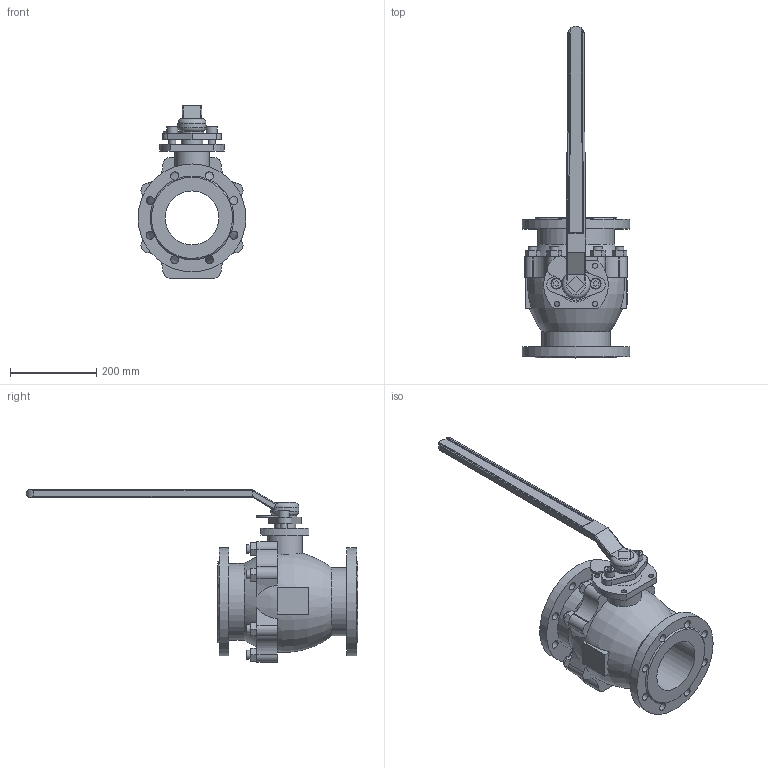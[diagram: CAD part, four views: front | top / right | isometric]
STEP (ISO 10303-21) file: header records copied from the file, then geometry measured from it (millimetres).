
FILE_DESCRIPTION(('STEP AP203'), '1');
FILE_NAME('3D_707-125-16', '', ('UNSPECIFIED'), ('UNSPECIFIED'), 'C3D Converter', 'C3D Toolkit', '');
FILE_SCHEMA(('CONFIG_CONTROL_DESIGN'));
Length unit declared in the file: millimetre
Bounding box: 250 x 769.38 x 400 mm (x, y, z)
Volume: 9036549.6 mm3; surface area: 752156 mm2
Topology: 37 solids, 37 shells, 2269 faces, 6657 edges, 4455 vertices
Faces by surface type: plane 2133, cylinder 97, cone 34, torus 5
Full cylindrical faces by diameter (mm): 12 x4, 15 x8, 16 x2, 19 x16, 20.616 x8, 25 x2, 50 x1, 65 x1, 80 x1, 125 x1, 158 x1, 178 x1, 250 x2
Entity records: 99084 total; most frequent: CARTESIAN_POINT 20516, ORIENTED_EDGE 13136, DIRECTION 11267, EDGE_CURVE 6568, LINE 6073, VECTOR 6073, VERTEX_POINT 4453, AXIS2_PLACEMENT_3D 2597
